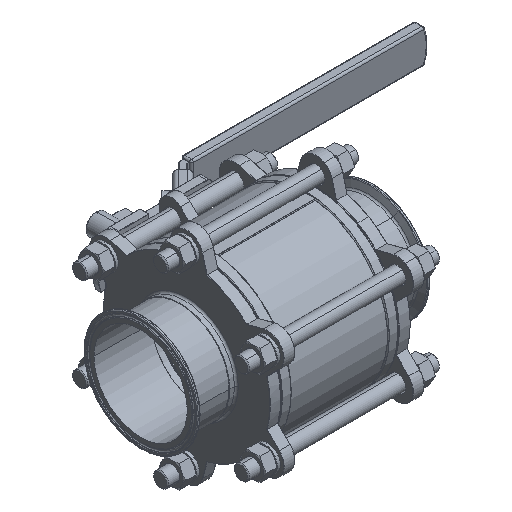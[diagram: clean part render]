
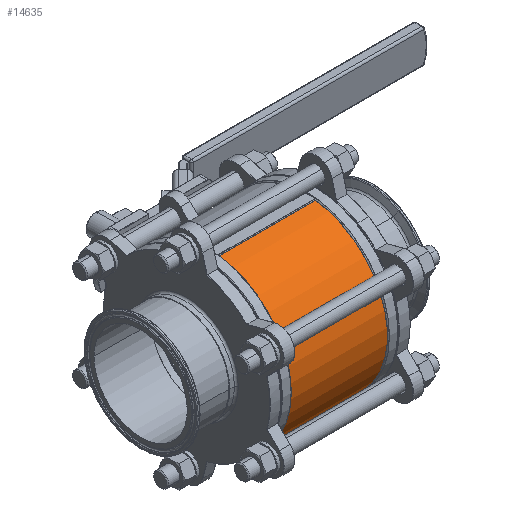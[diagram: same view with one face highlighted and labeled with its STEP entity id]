
A CAD part, isometric view. The second image highlights one B-rep face of the part: STEP entity #14635.
In plain terms, the highlighted cylindrical face has radius 86 mm (diameter 172 mm), a partial arc.
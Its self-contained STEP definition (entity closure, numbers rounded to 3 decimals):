
#191 = EDGE_CURVE ( 'NONE', #26449, #7474, #8531, .T. ) ;
#588 = EDGE_LOOP ( 'NONE', ( #24109, #20043, #11832, #7776 ) ) ;
#653 = EDGE_CURVE ( 'NONE', #7474, #3029, #20510, .T. ) ;
#1850 = CARTESIAN_POINT ( 'NONE',  ( 24.418, -11.069, 85.285 ) ) ;
#2946 = EDGE_CURVE ( 'NONE', #26066, #26449, #22677, .T. ) ;
#3029 = VERTEX_POINT ( 'NONE', #9207 ) ;
#4388 = CARTESIAN_POINT ( 'NONE',  ( 24.418, 0., 0. ) ) ;
#5137 = DIRECTION ( 'NONE',  ( -1., 0., 0. ) ) ;
#5603 = DIRECTION ( 'NONE',  ( 0., 0., -1. ) ) ;
#5992 = CARTESIAN_POINT ( 'NONE',  ( 50.167, -11.069, 85.285 ) ) ;
#7474 = VERTEX_POINT ( 'NONE', #11788 ) ;
#7593 = AXIS2_PLACEMENT_3D ( 'NONE', #24447, #5137, #24259 ) ;
#7776 = ORIENTED_EDGE ( 'NONE', *, *, #2946, .T. ) ;
#8531 = LINE ( 'NONE', #1850, #13187 ) ;
#8619 = AXIS2_PLACEMENT_3D ( 'NONE', #4388, #13109, #19284 ) ;
#9207 = CARTESIAN_POINT ( 'NONE',  ( -50.167, -11.069, -85.285 ) ) ;
#11526 = FACE_OUTER_BOUND ( 'NONE', #588, .T. ) ;
#11788 = CARTESIAN_POINT ( 'NONE',  ( -50.167, -11.069, 85.285 ) ) ;
#11832 = ORIENTED_EDGE ( 'NONE', *, *, #12847, .T. ) ;
#12513 = DIRECTION ( 'NONE',  ( -1., 0., 0. ) ) ;
#12847 = EDGE_CURVE ( 'NONE', #3029, #26066, #16944, .T. ) ;
#13109 = DIRECTION ( 'NONE',  ( 1., 0., 0. ) ) ;
#13187 = VECTOR ( 'NONE', #12513, 1000. ) ;
#14635 = ADVANCED_FACE ( 'NONE', ( #11526 ), #26637, .T. ) ;
#16944 = LINE ( 'NONE', #24596, #26999 ) ;
#18231 = AXIS2_PLACEMENT_3D ( 'NONE', #18542, #20695, #5603 ) ;
#18542 = CARTESIAN_POINT ( 'NONE',  ( -50.167, 0., 0. ) ) ;
#19284 = DIRECTION ( 'NONE',  ( 0., 0., -1. ) ) ;
#20043 = ORIENTED_EDGE ( 'NONE', *, *, #653, .T. ) ;
#20510 = CIRCLE ( 'NONE', #18231, 86. ) ;
#20695 = DIRECTION ( 'NONE',  ( 1., 0., 0. ) ) ;
#21942 = CARTESIAN_POINT ( 'NONE',  ( 50.167, -11.069, -85.285 ) ) ;
#22677 = CIRCLE ( 'NONE', #7593, 86. ) ;
#24109 = ORIENTED_EDGE ( 'NONE', *, *, #191, .T. ) ;
#24259 = DIRECTION ( 'NONE',  ( 0., 0., -1. ) ) ;
#24447 = CARTESIAN_POINT ( 'NONE',  ( 50.167, 0., 0. ) ) ;
#24596 = CARTESIAN_POINT ( 'NONE',  ( 24.418, -11.069, -85.285 ) ) ;
#25151 = DIRECTION ( 'NONE',  ( 1., 0., 0. ) ) ;
#26066 = VERTEX_POINT ( 'NONE', #21942 ) ;
#26449 = VERTEX_POINT ( 'NONE', #5992 ) ;
#26637 = CYLINDRICAL_SURFACE ( 'NONE', #8619, 86. ) ;
#26999 = VECTOR ( 'NONE', #25151, 1000. ) ;
